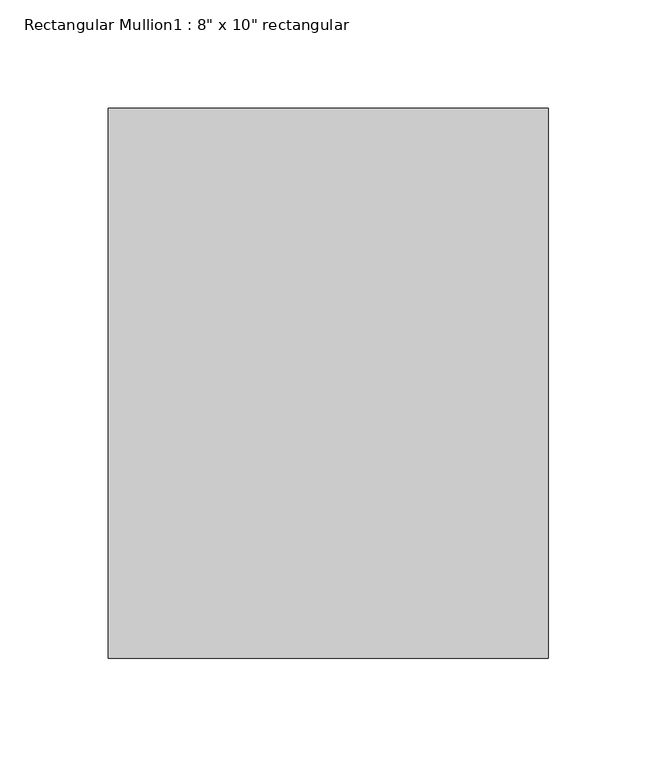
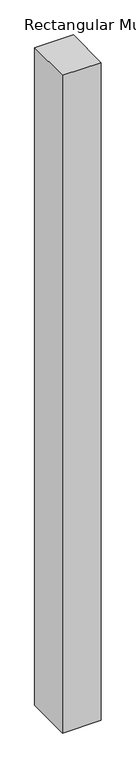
"""IFC4 building model written with IfcOpenShell, lengths in millimetres: member geometry."""

from ifc_helpers import new_model, si_unit, frame, origin, place, context, project, spatial, polyline, outline, extrude, source, transform, mapped, element, save


def member_98c0bc9c(model_context):
    return source(origin(), model_context, "Body", "SweptSolid", [
        extrude(outline(polyline([(0.0, 127.0), (0.0, -127.0), (-203.2, -127.0), (-203.2, 127.0), (0.0, 127.0)])), frame((0.0, 0.0, -3657.6), z_axis=(0.0, 0.0, 1.0), x_axis=(1.0, 0.0, 0.0)), (0.0, 0.0, 1.0), 3657.6),
    ])


if __name__ == "__main__":
    model = new_model("IFC4")
    model_context = context("Model", 3, world=origin())
    ifc_project = project(units=[si_unit("LENGTHUNIT", "METRE", prefix="MILLI")], contexts=[model_context])
    site = spatial("IfcSite", under=ifc_project)
    building = spatial("IfcBuilding", under=site)
    placement = place(None, origin())
    member_shape = member_98c0bc9c(model_context)
    element("IfcMember", 1, ObjectType="Rectangular Mullion1 : 8\" x 10\" rectangular", at=placement, inside=building, context=model_context, shape_type="MappedRepresentation", body=[
        mapped(member_shape, transform((0.0, 0.0, 0.0), x_axis=(1.0, 0.0, 0.0), y_axis=(0.0, 1.0, 0.0), z_axis=(0.0, 0.0, 1.0))),
    ])
    save(model, "model.ifc")
